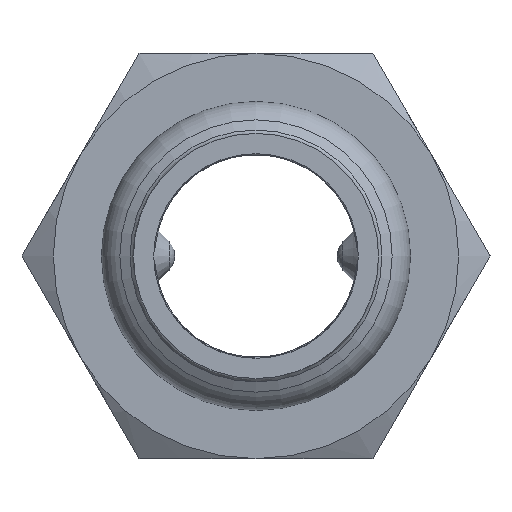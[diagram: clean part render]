
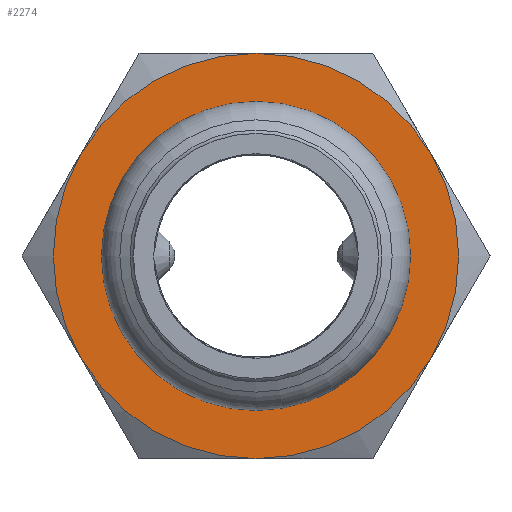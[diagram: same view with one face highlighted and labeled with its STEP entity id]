
A CAD part, left-side view. The second image highlights one B-rep face of the part: STEP entity #2274.
In plain terms, the highlighted planar face has unit normal (-1, 0, 0) as drawn and (0, 0, -1) by its records, which use the part's own axes.
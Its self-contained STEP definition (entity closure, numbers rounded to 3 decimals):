
#1464=CARTESIAN_POINT('',(-12.99,7.5,0.));
#1465=VERTEX_POINT('',#1464);
#1479=CARTESIAN_POINT('',(0.,15.,0.));
#1480=VERTEX_POINT('',#1479);
#1494=CARTESIAN_POINT('',(0.0,0.0,0.0));
#1495=DIRECTION('',(0.0,0.0,-1.0));
#1496=DIRECTION('',(1.0,0.0,0.0));
#1497=AXIS2_PLACEMENT_3D('',#1494,#1495,#1496);
#1498=CIRCLE('',#1497,15.);
#1499=EDGE_CURVE('',#1465,#1480,#1498,.T.);
#1511=CARTESIAN_POINT('',(-12.99,-7.5,0.));
#1512=VERTEX_POINT('',#1511);
#1539=CARTESIAN_POINT('',(0.0,0.0,0.0));
#1540=DIRECTION('',(0.0,0.0,-1.0));
#1541=DIRECTION('',(1.0,0.0,0.0));
#1542=AXIS2_PLACEMENT_3D('',#1539,#1540,#1541);
#1543=CIRCLE('',#1542,15.);
#1544=EDGE_CURVE('',#1512,#1465,#1543,.T.);
#1556=CARTESIAN_POINT('',(0.,-15.,0.));
#1557=VERTEX_POINT('',#1556);
#1584=CARTESIAN_POINT('',(0.0,0.0,0.0));
#1585=DIRECTION('',(0.0,0.0,-1.0));
#1586=DIRECTION('',(1.0,0.0,0.0));
#1587=AXIS2_PLACEMENT_3D('',#1584,#1585,#1586);
#1588=CIRCLE('',#1587,15.);
#1589=EDGE_CURVE('',#1557,#1512,#1588,.T.);
#1614=CARTESIAN_POINT('',(12.99,-7.5,0.));
#1615=VERTEX_POINT('',#1614);
#1616=CARTESIAN_POINT('',(0.0,0.0,0.0));
#1617=DIRECTION('',(0.0,0.0,-1.0));
#1618=DIRECTION('',(1.0,0.0,0.0));
#1619=AXIS2_PLACEMENT_3D('',#1616,#1617,#1618);
#1620=CIRCLE('',#1619,15.);
#1621=EDGE_CURVE('',#1615,#1557,#1620,.T.);
#1659=CARTESIAN_POINT('',(12.99,7.5,0.));
#1660=VERTEX_POINT('',#1659);
#1661=CARTESIAN_POINT('',(0.0,0.0,0.0));
#1662=DIRECTION('',(0.0,0.0,-1.0));
#1663=DIRECTION('',(1.0,0.0,0.0));
#1664=AXIS2_PLACEMENT_3D('',#1661,#1662,#1663);
#1665=CIRCLE('',#1664,15.);
#1666=EDGE_CURVE('',#1660,#1615,#1665,.T.);
#1704=CARTESIAN_POINT('',(0.0,0.0,0.0));
#1705=DIRECTION('',(0.0,0.0,-1.0));
#1706=DIRECTION('',(1.0,0.0,0.0));
#1707=AXIS2_PLACEMENT_3D('',#1704,#1705,#1706);
#1708=CIRCLE('',#1707,15.);
#1709=EDGE_CURVE('',#1480,#1660,#1708,.T.);
#2182=CARTESIAN_POINT('',(-9.5,0.0,0.0));
#2183=VERTEX_POINT('',#2182);
#2184=CARTESIAN_POINT('',(0.0,0.0,0.0));
#2185=DIRECTION('',(0.0,0.0,1.0));
#2186=DIRECTION('',(-1.0,0.0,0.0));
#2187=AXIS2_PLACEMENT_3D('',#2184,#2185,#2186);
#2188=CIRCLE('',#2187,9.5);
#2189=EDGE_CURVE('',#2183,#2183,#2188,.T.);
#2258=CARTESIAN_POINT('',(0.,0.,0.0));
#2259=DIRECTION('',(0.0,0.0,1.0));
#2260=DIRECTION('',(1.0,0.0,0.0));
#2261=AXIS2_PLACEMENT_3D('',#2258,#2259,#2260);
#2262=PLANE('',#2261);
#2263=ORIENTED_EDGE('',*,*,#1709,.T.);
#2264=ORIENTED_EDGE('',*,*,#1666,.T.);
#2265=ORIENTED_EDGE('',*,*,#1621,.T.);
#2266=ORIENTED_EDGE('',*,*,#1589,.T.);
#2267=ORIENTED_EDGE('',*,*,#1544,.T.);
#2268=ORIENTED_EDGE('',*,*,#1499,.T.);
#2269=EDGE_LOOP('',(#2263,#2264,#2265,#2266,#2267,#2268));
#2270=FACE_OUTER_BOUND('',#2269,.T.);
#2271=ORIENTED_EDGE('',*,*,#2189,.T.);
#2272=EDGE_LOOP('',(#2271));
#2273=FACE_BOUND('',#2272,.T.);
#2274=ADVANCED_FACE('',(#2270,#2273),#2262,.F.);
